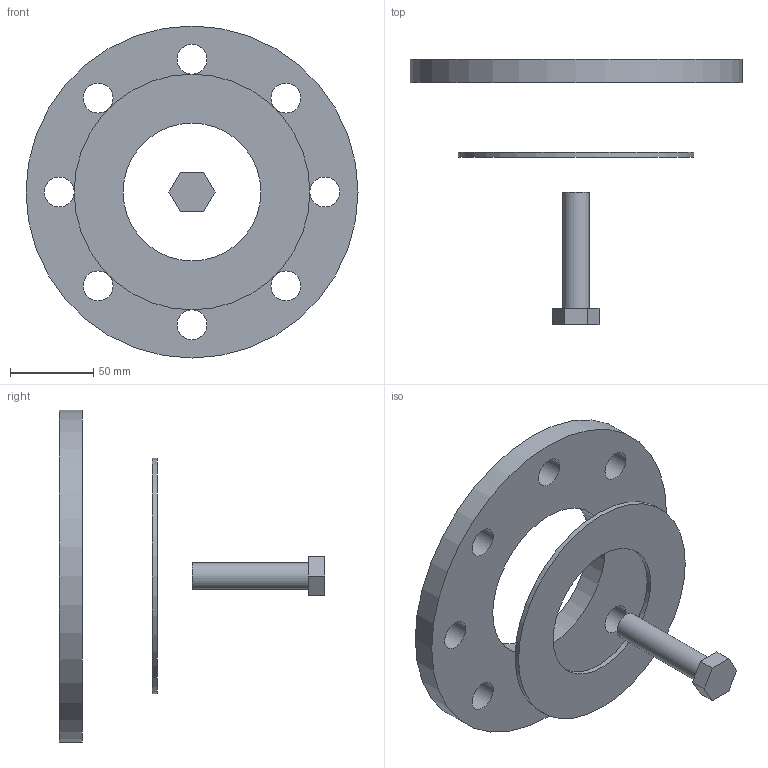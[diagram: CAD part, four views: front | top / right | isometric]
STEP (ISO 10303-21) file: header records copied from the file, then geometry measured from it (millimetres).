
FILE_DESCRIPTION( ( 'STEP AP214' ), '1' );
FILE_NAME( 'C:/Users/ilukic/Documents/ex/gebaudeentwasserung/pe/Geberit PE flange set/366746.stp', '2020-03-26T18:42:21', ( '' ), ( '' ), ' ', 'PARTsolutions', ' ' );
FILE_SCHEMA( ( 'AUTOMOTIVE_DESIGN { 1 0 10303 214 1 1 1 1 }' ) );
Length unit declared in the file: millimetre
Products named in the file (4): 366746; _366746_flange1; _366746_flange2; _366746_bolt
Assembly tree (3 placements, depth 2):
  366746
    _366746_flange1
    _366746_flange2
    _366746_bolt
Bounding box: 200 x 160 x 200 mm (x, y, z)
Volume: 360328.4 mm3; surface area: 91956.6 mm2
Topology: 3 solids, 3 shells, 26 faces, 57 edges, 38 vertices
Faces by surface type: plane 13, cylinder 13
Full cylindrical faces by diameter (mm): 16 x1, 18 x8, 83 x1, 96 x1, 142 x1, 200 x1
Entity records: 980 total; most frequent: DIRECTION 130, CARTESIAN_POINT 112, ORIENTED_EDGE 88, EDGE_LOOP 60, AXIS2_PLACEMENT_3D 56, EDGE_CURVE 44, FACE_OUTER_BOUND 39, VERTEX_POINT 38
